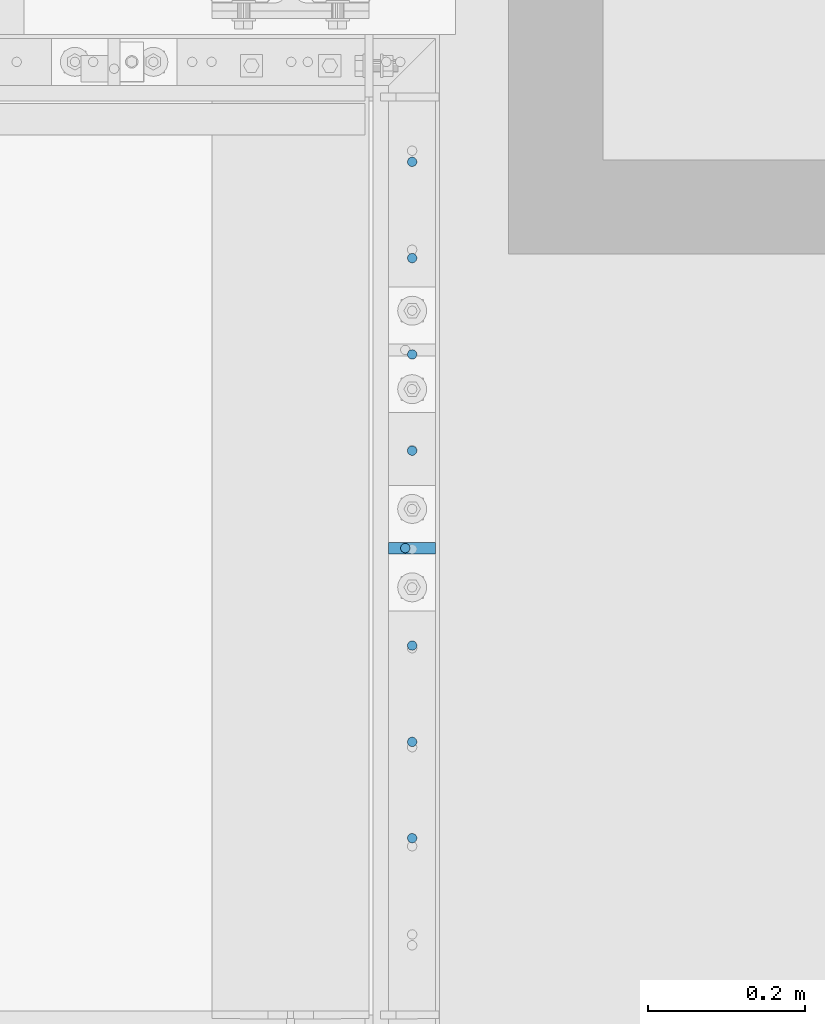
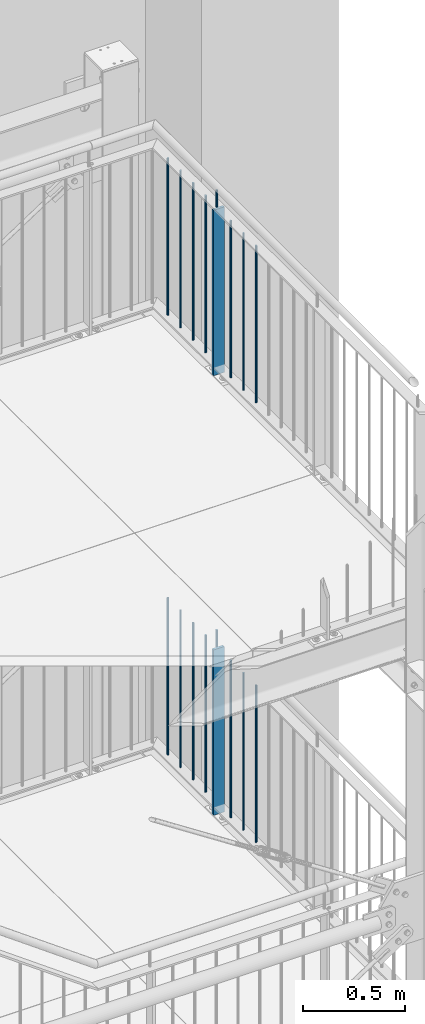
# One storey, part 103 of 825: 18 columns.
"""IFC2X3 building model written with IfcOpenShell, lengths in millimetres."""

from ifc_helpers import new_model, entity, si_unit, converted_unit, frame, origin, origin_with_axes, origin_2d, place, context, project, spatial, rectangle, circle, extrude, clip, halfspace, material, element, save


model = new_model("IFC2X3")

# Units and contexts
model_context = context("Model", 3, precision=1e-09, world=origin_with_axes())
ifc_project = project(units=[si_unit("LENGTHUNIT", "METRE", prefix="MILLI"), si_unit("AREAUNIT", "SQUARE_METRE"), si_unit("VOLUMEUNIT", "CUBIC_METRE"), converted_unit("PLANEANGLEUNIT", "DEGREE", entity("IfcPlaneAngleMeasure", 0.01745329), si_unit("PLANEANGLEUNIT", "RADIAN"), dimensions=[0, 0, 0, 0, 0, 0, 0])], contexts=[model_context])

# Site, building, storey
site_placement = place(None, origin_with_axes())
site = spatial("IfcSite", under=ifc_project, at=site_placement, Name="Cnopf'sche Kinderklinik", CompositionType="ELEMENT")
building_placement = place(site_placement, origin_with_axes())
building = spatial("IfcBuilding", under=site, at=building_placement, Name="Struktur 1", CompositionType="ELEMENT")
storey_placement = place(building_placement, origin_with_axes())
storey = spatial("IfcBuildingStorey", under=building, at=storey_placement, Name="Default Storey", CompositionType="ELEMENT", Elevation=0.0)

# Columns
ifc_material = material(Name="S235JR")
column_1_placement = place(None, frame((9021.713402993, 6736.736257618, 14936.223292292), z_axis=(0.0, 0.0, 1.0), x_axis=(0.0, -1.0, 0.0)))
element("IfcColumn", 1, at=column_1_placement, inside=storey, material=ifc_material, Name="Railing_Post_Landing#5", ObjectType="Railing_Post_Landing#5", context=model_context, shape_type="Clipping", body=[
    clip(clip(extrude(rectangle(XDim=15.0, YDim=60.0, at=origin_2d()), origin(), (0.0, 0.0, -1.0), 1070.646584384), halfspace(frame((6736.736257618, -9021.713402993, -1019.722292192), z_axis=(0.0, 0.0, 1.0), x_axis=(0.0, 1.0, 0.0)), True)), halfspace(frame((6736.736257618, -9021.713402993, -30.924292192), z_axis=(0.0, 0.0, -1.0), x_axis=(0.0, -1.0, 0.0)), True)),
])
column_2_placement = place(None, frame((9021.713402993, 7229.236329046, 14918.785281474), z_axis=(0.0, 0.0, 1.0), x_axis=(0.0, -1.0, 0.0)))
element("IfcColumn", 2, at=column_2_placement, inside=storey, material=ifc_material, Name="Railing_Picket_Landing#31", ObjectType="Railing_Picket_Landing#31", context=model_context, shape_type="Clipping", body=[
    clip(clip(extrude(circle(Radius=6.0, at=origin_2d()), origin(), (0.0, 0.0, -1.0), 965.770562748), halfspace(frame((7229.236329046, -9021.713402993, -13.486281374), z_axis=(0.0, 0.0, -1.0), x_axis=(0.0, -1.0, 0.0)), True)), halfspace(frame((7229.236329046, -9021.713402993, -952.284281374), z_axis=(0.0, 0.0, 1.0), x_axis=(0.0, 1.0, 0.0)), True)),
])
column_3_placement = place(None, frame((9021.713402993, 7106.486305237, 14918.785281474), z_axis=(0.0, 0.0, 1.0), x_axis=(0.0, -1.0, 0.0)))
element("IfcColumn", 3, at=column_3_placement, inside=storey, material=ifc_material, Name="Railing_Picket_Landing#32", ObjectType="Railing_Picket_Landing#32", context=model_context, shape_type="Clipping", body=[
    clip(clip(extrude(circle(Radius=6.0, at=origin_2d()), origin(), (0.0, 0.0, -1.0), 965.770562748), halfspace(frame((7106.486305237, -9021.713402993, -13.486281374), z_axis=(0.0, 0.0, -1.0), x_axis=(0.0, -1.0, 0.0)), True)), halfspace(frame((7106.486305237, -9021.713402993, -952.284281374), z_axis=(0.0, 0.0, 1.0), x_axis=(0.0, 1.0, 0.0)), True)),
])
column_4_placement = place(None, frame((9021.713402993, 6983.736281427, 14918.785281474), z_axis=(0.0, 0.0, 1.0), x_axis=(0.0, -1.0, 0.0)))
element("IfcColumn", 4, at=column_4_placement, inside=storey, material=ifc_material, Name="Railing_Picket_Landing#33", ObjectType="Railing_Picket_Landing#33", context=model_context, shape_type="Clipping", body=[
    clip(clip(extrude(circle(Radius=6.0, at=origin_2d()), origin(), (0.0, 0.0, -1.0), 965.770562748), halfspace(frame((6983.736281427, -9021.713402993, -13.486281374), z_axis=(0.0, 0.0, -1.0), x_axis=(0.0, -1.0, 0.0)), True)), halfspace(frame((6983.736281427, -9021.713402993, -952.284281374), z_axis=(0.0, 0.0, 1.0), x_axis=(0.0, 1.0, 0.0)), True)),
])
column_5_placement = place(None, frame((9021.713402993, 6860.986257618, 14918.785281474), z_axis=(0.0, 0.0, 1.0), x_axis=(0.0, -1.0, 0.0)))
element("IfcColumn", 5, at=column_5_placement, inside=storey, material=ifc_material, Name="Railing_Picket_Landing#34", ObjectType="Railing_Picket_Landing#34", context=model_context, shape_type="Clipping", body=[
    clip(clip(extrude(circle(Radius=6.0, at=origin_2d()), origin(), (0.0, 0.0, -1.0), 965.770562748), halfspace(frame((6860.986257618, -9021.713402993, -13.486281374), z_axis=(0.0, 0.0, -1.0), x_axis=(0.0, -1.0, 0.0)), True)), halfspace(frame((6860.986257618, -9021.713402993, -952.284281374), z_axis=(0.0, 0.0, 1.0), x_axis=(0.0, 1.0, 0.0)), True)),
])
column_6_placement = place(None, frame((9021.713402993, 6612.486257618, 14918.785281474), z_axis=(0.0, 0.0, 1.0), x_axis=(0.0, -1.0, 0.0)))
element("IfcColumn", 6, at=column_6_placement, inside=storey, material=ifc_material, Name="Railing_Picket_Landing#35", ObjectType="Railing_Picket_Landing#35", context=model_context, shape_type="Clipping", body=[
    clip(clip(extrude(circle(Radius=6.0, at=origin_2d()), origin(), (0.0, 0.0, -1.0), 965.770562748), halfspace(frame((6612.486257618, -9021.713402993, -13.486281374), z_axis=(0.0, 0.0, -1.0), x_axis=(0.0, -1.0, 0.0)), True)), halfspace(frame((6612.486257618, -9021.713402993, -952.284281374), z_axis=(0.0, 0.0, 1.0), x_axis=(0.0, 1.0, 0.0)), True)),
])
column_7_placement = place(None, frame((9021.713402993, 6489.736233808, 14918.785281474), z_axis=(0.0, 0.0, 1.0), x_axis=(0.0, -1.0, 0.0)))
element("IfcColumn", 7, at=column_7_placement, inside=storey, material=ifc_material, Name="Railing_Picket_Landing#36", ObjectType="Railing_Picket_Landing#36", context=model_context, shape_type="Clipping", body=[
    clip(clip(extrude(circle(Radius=6.0, at=origin_2d()), origin(), (0.0, 0.0, -1.0), 965.770562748), halfspace(frame((6489.736233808, -9021.713402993, -13.486281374), z_axis=(0.0, 0.0, -1.0), x_axis=(0.0, -1.0, 0.0)), True)), halfspace(frame((6489.736233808, -9021.713402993, -952.284281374), z_axis=(0.0, 0.0, 1.0), x_axis=(0.0, 1.0, 0.0)), True)),
])
column_8_placement = place(None, frame((9021.713402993, 6366.986209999, 14918.785281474), z_axis=(0.0, 0.0, 1.0), x_axis=(0.0, -1.0, 0.0)))
element("IfcColumn", 8, at=column_8_placement, inside=storey, material=ifc_material, Name="Railing_Picket_Landing#37", ObjectType="Railing_Picket_Landing#37", context=model_context, shape_type="Clipping", body=[
    clip(clip(extrude(circle(Radius=6.0, at=origin_2d()), origin(), (0.0, 0.0, -1.0), 965.770562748), halfspace(frame((6366.986209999, -9021.713402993, -13.486281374), z_axis=(0.0, 0.0, -1.0), x_axis=(0.0, -1.0, 0.0)), True)), halfspace(frame((6366.986209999, -9021.713402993, -952.284281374), z_axis=(0.0, 0.0, 1.0), x_axis=(0.0, 1.0, 0.0)), True)),
])
column_9_placement = place(None, frame((9012.913402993, 6736.736257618, 15023.785281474), z_axis=(0.0, 0.0, 1.0), x_axis=(-1.0, 0.0, 0.0)))
element("IfcColumn", 9, at=column_9_placement, inside=storey, material=ifc_material, Name="Bar#5", ObjectType="Bar#5", context=model_context, shape_type="Clipping", body=[
    clip(clip(extrude(circle(Radius=6.0, at=origin_2d()), origin(), (0.0, 0.0, -1.0), 116.970562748), halfspace(frame((9012.913402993, 6736.736257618, -8.486281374), z_axis=(0.0, 0.0, -1.0), x_axis=(1.0, 0.0, 0.0)), True)), halfspace(frame((9012.913402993, 6736.736257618, -108.484281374), z_axis=(0.0, 0.0, 1.0), x_axis=(-1.0, 0.0, 0.0)), True)),
])
column_10_placement = place(None, frame((9021.713402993, 6736.736257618, 17563.723292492), z_axis=(0.0, 0.0, 1.0), x_axis=(0.0, -1.0, 0.0)))
element("IfcColumn", 10, at=column_10_placement, inside=storey, material=ifc_material, Name="Railing_Post_Landing#5", ObjectType="Railing_Post_Landing#5", context=model_context, shape_type="Clipping", body=[
    clip(clip(extrude(rectangle(XDim=15.0, YDim=60.0, at=origin_2d()), origin(), (0.0, 0.0, -1.0), 1070.646584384), halfspace(frame((6736.736257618, -9021.713402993, -1019.722292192), z_axis=(0.0, 0.0, 1.0), x_axis=(0.0, 1.0, 0.0)), True)), halfspace(frame((6736.736257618, -9021.713402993, -30.924292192), z_axis=(0.0, 0.0, -1.0), x_axis=(0.0, -1.0, 0.0)), True)),
])
column_11_placement = place(None, frame((9021.713402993, 7229.236329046, 17546.285281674), z_axis=(0.0, 0.0, 1.0), x_axis=(0.0, -1.0, 0.0)))
element("IfcColumn", 11, at=column_11_placement, inside=storey, material=ifc_material, Name="Railing_Picket_Landing#31", ObjectType="Railing_Picket_Landing#31", context=model_context, shape_type="Clipping", body=[
    clip(clip(extrude(circle(Radius=6.0, at=origin_2d()), origin(), (0.0, 0.0, -1.0), 965.770562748), halfspace(frame((7229.236329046, -9021.713402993, -13.486281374), z_axis=(0.0, 0.0, -1.0), x_axis=(0.0, -1.0, 0.0)), True)), halfspace(frame((7229.236329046, -9021.713402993, -952.284281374), z_axis=(0.0, 0.0, 1.0), x_axis=(0.0, 1.0, 0.0)), True)),
])
column_12_placement = place(None, frame((9021.713402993, 7106.486305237, 17546.285281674), z_axis=(0.0, 0.0, 1.0), x_axis=(0.0, -1.0, 0.0)))
element("IfcColumn", 12, at=column_12_placement, inside=storey, material=ifc_material, Name="Railing_Picket_Landing#32", ObjectType="Railing_Picket_Landing#32", context=model_context, shape_type="Clipping", body=[
    clip(clip(extrude(circle(Radius=6.0, at=origin_2d()), origin(), (0.0, 0.0, -1.0), 965.770562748), halfspace(frame((7106.486305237, -9021.713402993, -13.486281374), z_axis=(0.0, 0.0, -1.0), x_axis=(0.0, -1.0, 0.0)), True)), halfspace(frame((7106.486305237, -9021.713402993, -952.284281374), z_axis=(0.0, 0.0, 1.0), x_axis=(0.0, 1.0, 0.0)), True)),
])
column_13_placement = place(None, frame((9021.713402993, 6983.736281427, 17546.285281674), z_axis=(0.0, 0.0, 1.0), x_axis=(0.0, -1.0, 0.0)))
element("IfcColumn", 13, at=column_13_placement, inside=storey, material=ifc_material, Name="Railing_Picket_Landing#33", ObjectType="Railing_Picket_Landing#33", context=model_context, shape_type="Clipping", body=[
    clip(clip(extrude(circle(Radius=6.0, at=origin_2d()), origin(), (0.0, 0.0, -1.0), 965.770562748), halfspace(frame((6983.736281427, -9021.713402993, -13.486281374), z_axis=(0.0, 0.0, -1.0), x_axis=(0.0, -1.0, 0.0)), True)), halfspace(frame((6983.736281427, -9021.713402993, -952.284281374), z_axis=(0.0, 0.0, 1.0), x_axis=(0.0, 1.0, 0.0)), True)),
])
column_14_placement = place(None, frame((9021.713402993, 6860.986257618, 17546.285281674), z_axis=(0.0, 0.0, 1.0), x_axis=(0.0, -1.0, 0.0)))
element("IfcColumn", 14, at=column_14_placement, inside=storey, material=ifc_material, Name="Railing_Picket_Landing#34", ObjectType="Railing_Picket_Landing#34", context=model_context, shape_type="Clipping", body=[
    clip(clip(extrude(circle(Radius=6.0, at=origin_2d()), origin(), (0.0, 0.0, -1.0), 965.770562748), halfspace(frame((6860.986257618, -9021.713402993, -13.486281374), z_axis=(0.0, 0.0, -1.0), x_axis=(0.0, -1.0, 0.0)), True)), halfspace(frame((6860.986257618, -9021.713402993, -952.284281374), z_axis=(0.0, 0.0, 1.0), x_axis=(0.0, 1.0, 0.0)), True)),
])
column_15_placement = place(None, frame((9021.713402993, 6612.486257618, 17546.285281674), z_axis=(0.0, 0.0, 1.0), x_axis=(0.0, -1.0, 0.0)))
element("IfcColumn", 15, at=column_15_placement, inside=storey, material=ifc_material, Name="Railing_Picket_Landing#35", ObjectType="Railing_Picket_Landing#35", context=model_context, shape_type="Clipping", body=[
    clip(clip(extrude(circle(Radius=6.0, at=origin_2d()), origin(), (0.0, 0.0, -1.0), 965.770562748), halfspace(frame((6612.486257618, -9021.713402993, -13.486281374), z_axis=(0.0, 0.0, -1.0), x_axis=(0.0, -1.0, 0.0)), True)), halfspace(frame((6612.486257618, -9021.713402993, -952.284281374), z_axis=(0.0, 0.0, 1.0), x_axis=(0.0, 1.0, 0.0)), True)),
])
column_16_placement = place(None, frame((9021.713402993, 6489.736233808, 17546.285281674), z_axis=(0.0, 0.0, 1.0), x_axis=(0.0, -1.0, 0.0)))
element("IfcColumn", 16, at=column_16_placement, inside=storey, material=ifc_material, Name="Railing_Picket_Landing#36", ObjectType="Railing_Picket_Landing#36", context=model_context, shape_type="Clipping", body=[
    clip(clip(extrude(circle(Radius=6.0, at=origin_2d()), origin(), (0.0, 0.0, -1.0), 965.770562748), halfspace(frame((6489.736233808, -9021.713402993, -13.486281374), z_axis=(0.0, 0.0, -1.0), x_axis=(0.0, -1.0, 0.0)), True)), halfspace(frame((6489.736233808, -9021.713402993, -952.284281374), z_axis=(0.0, 0.0, 1.0), x_axis=(0.0, 1.0, 0.0)), True)),
])
column_17_placement = place(None, frame((9021.713402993, 6366.986209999, 17546.285281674), z_axis=(0.0, 0.0, 1.0), x_axis=(0.0, -1.0, 0.0)))
element("IfcColumn", 17, at=column_17_placement, inside=storey, material=ifc_material, Name="Railing_Picket_Landing#37", ObjectType="Railing_Picket_Landing#37", context=model_context, shape_type="Clipping", body=[
    clip(clip(extrude(circle(Radius=6.0, at=origin_2d()), origin(), (0.0, 0.0, -1.0), 965.770562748), halfspace(frame((6366.986209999, -9021.713402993, -13.486281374), z_axis=(0.0, 0.0, -1.0), x_axis=(0.0, -1.0, 0.0)), True)), halfspace(frame((6366.986209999, -9021.713402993, -952.284281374), z_axis=(0.0, 0.0, 1.0), x_axis=(0.0, 1.0, 0.0)), True)),
])
column_18_placement = place(None, frame((9012.913402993, 6736.736257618, 17651.285281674), z_axis=(0.0, 0.0, 1.0), x_axis=(-1.0, 0.0, 0.0)))
element("IfcColumn", 18, at=column_18_placement, inside=storey, material=ifc_material, Name="Bar#5", ObjectType="Bar#5", context=model_context, shape_type="Clipping", body=[
    clip(clip(extrude(circle(Radius=6.0, at=origin_2d()), origin(), (0.0, 0.0, -1.0), 116.970562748), halfspace(frame((9012.913402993, 6736.736257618, -8.486281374), z_axis=(0.0, 0.0, -1.0), x_axis=(1.0, 0.0, 0.0)), True)), halfspace(frame((9012.913402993, 6736.736257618, -108.484281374), z_axis=(0.0, 0.0, 1.0), x_axis=(-1.0, 0.0, 0.0)), True)),
])

save(model, "model.ifc")
